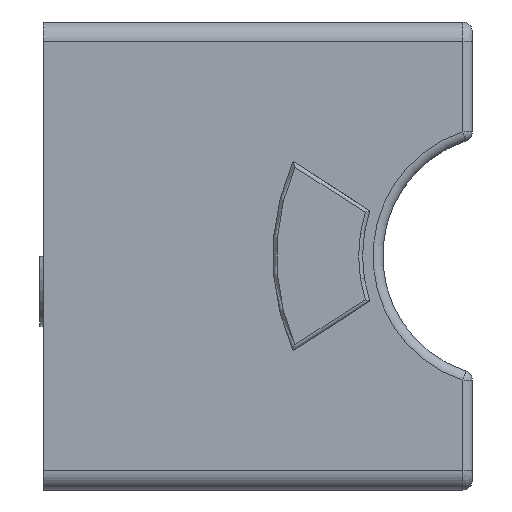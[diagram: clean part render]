
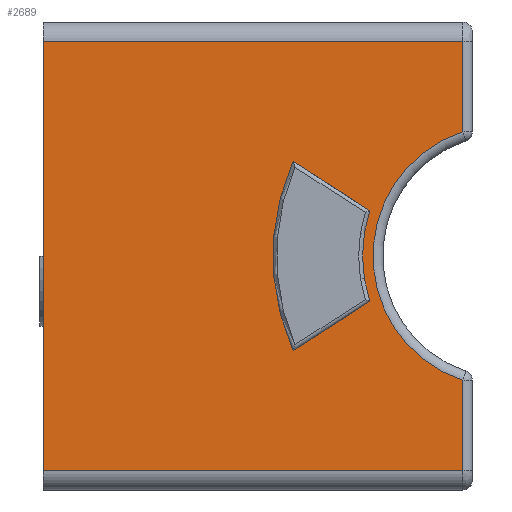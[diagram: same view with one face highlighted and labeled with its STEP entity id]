
A CAD part, left-side view. The second image highlights one B-rep face of the part: STEP entity #2689.
In plain terms, the highlighted planar face has unit normal (-1, 0, 0).
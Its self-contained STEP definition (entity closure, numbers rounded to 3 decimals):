
#102=FACE_BOUND('',#393,.T.);
#103=FACE_BOUND('',#394,.T.);
#221=FACE_OUTER_BOUND('',#392,.T.);
#392=EDGE_LOOP('',(#2316,#2317,#2318,#2319,#2320,#2321));
#393=EDGE_LOOP('',(#2322,#2323,#2324,#2325));
#394=EDGE_LOOP('',(#2326,#2327,#2328,#2329));
#524=CIRCLE('',#2933,6.713);
#525=CIRCLE('',#2934,11.85);
#526=CIRCLE('',#2935,7.25);
#553=LINE('',#3801,#815);
#779=LINE('',#4497,#1041);
#780=LINE('',#4510,#1042);
#781=LINE('',#4514,#1043);
#782=LINE('',#4515,#1044);
#783=LINE('',#4519,#1045);
#784=LINE('',#4523,#1046);
#785=LINE('',#4524,#1047);
#786=LINE('',#4527,#1048);
#787=LINE('',#4531,#1049);
#788=LINE('',#4532,#1050);
#815=VECTOR('',#3007,22.);
#1041=VECTOR('',#3619,4.628);
#1042=VECTOR('',#3626,21.5);
#1043=VECTOR('',#3629,4.628);
#1044=VECTOR('',#3630,21.5);
#1045=VECTOR('',#3633,0.831);
#1046=VECTOR('',#3636,0.831);
#1047=VECTOR('',#3637,8.803);
#1048=VECTOR('',#3638,0.884);
#1049=VECTOR('',#3641,0.884);
#1050=VECTOR('',#3642,5.594);
#1079=VERTEX_POINT('',#3798);
#1080=VERTEX_POINT('',#3800);
#1291=VERTEX_POINT('',#4492);
#1292=VERTEX_POINT('',#4496);
#1293=VERTEX_POINT('',#4512);
#1294=VERTEX_POINT('',#4513);
#1295=VERTEX_POINT('',#4517);
#1296=VERTEX_POINT('',#4518);
#1297=VERTEX_POINT('',#4520);
#1298=VERTEX_POINT('',#4522);
#1299=VERTEX_POINT('',#4525);
#1300=VERTEX_POINT('',#4526);
#1301=VERTEX_POINT('',#4528);
#1302=VERTEX_POINT('',#4530);
#1331=EDGE_CURVE('',#1079,#1080,#553,.T.);
#1644=EDGE_CURVE('',#1291,#1292,#779,.T.);
#1647=EDGE_CURVE('',#1079,#1292,#780,.T.);
#1648=EDGE_CURVE('',#1293,#1294,#781,.T.);
#1649=EDGE_CURVE('',#1080,#1293,#782,.T.);
#1650=EDGE_CURVE('',#1294,#1291,#524,.T.);
#1651=EDGE_CURVE('',#1295,#1296,#783,.T.);
#1652=EDGE_CURVE('',#1297,#1295,#525,.T.);
#1653=EDGE_CURVE('',#1298,#1297,#784,.T.);
#1654=EDGE_CURVE('',#1296,#1298,#785,.T.);
#1655=EDGE_CURVE('',#1299,#1300,#786,.T.);
#1656=EDGE_CURVE('',#1299,#1301,#526,.T.);
#1657=EDGE_CURVE('',#1302,#1301,#787,.T.);
#1658=EDGE_CURVE('',#1302,#1300,#788,.T.);
#2316=ORIENTED_EDGE('',*,*,#1648,.F.);
#2317=ORIENTED_EDGE('',*,*,#1649,.F.);
#2318=ORIENTED_EDGE('',*,*,#1331,.F.);
#2319=ORIENTED_EDGE('',*,*,#1647,.T.);
#2320=ORIENTED_EDGE('',*,*,#1644,.F.);
#2321=ORIENTED_EDGE('',*,*,#1650,.F.);
#2322=ORIENTED_EDGE('',*,*,#1651,.F.);
#2323=ORIENTED_EDGE('',*,*,#1652,.F.);
#2324=ORIENTED_EDGE('',*,*,#1653,.F.);
#2325=ORIENTED_EDGE('',*,*,#1654,.F.);
#2326=ORIENTED_EDGE('',*,*,#1655,.F.);
#2327=ORIENTED_EDGE('',*,*,#1656,.T.);
#2328=ORIENTED_EDGE('',*,*,#1657,.F.);
#2329=ORIENTED_EDGE('',*,*,#1658,.T.);
#2557=PLANE('',#2932);
#2689=ADVANCED_FACE('',(#221,#102,#103),#2557,.T.);
#2932=AXIS2_PLACEMENT_3D('',#4511,#3627,#3628);
#2933=AXIS2_PLACEMENT_3D('',#4516,#3631,#3632);
#2934=AXIS2_PLACEMENT_3D('',#4521,#3634,#3635);
#2935=AXIS2_PLACEMENT_3D('',#4529,#3639,#3640);
#3007=DIRECTION('',(0.,0.,1.));
#3619=DIRECTION('',(0.,0.,-1.));
#3626=DIRECTION('',(0.,-1.,0.));
#3627=DIRECTION('center_axis',(-1.,0.,0.));
#3628=DIRECTION('ref_axis',(0.,0.,1.));
#3629=DIRECTION('',(0.,0.,-1.));
#3630=DIRECTION('',(0.,-1.,0.));
#3631=DIRECTION('center_axis',(-1.,0.,0.));
#3632=DIRECTION('ref_axis',(0.,0.315,0.949));
#3633=DIRECTION('',(0.,-0.842,0.54));
#3634=DIRECTION('center_axis',(-1.,0.,0.));
#3635=DIRECTION('ref_axis',(0.,0.912,0.409));
#3636=DIRECTION('',(0.,0.842,0.54));
#3637=DIRECTION('',(0.,0.,1.));
#3638=DIRECTION('',(0.,0.842,0.54));
#3639=DIRECTION('center_axis',(-1.,0.,0.));
#3640=DIRECTION('ref_axis',(0.,0.947,0.32));
#3641=DIRECTION('',(0.,-0.842,0.54));
#3642=DIRECTION('',(0.,0.,1.));
#3798=CARTESIAN_POINT('',(-16.5,0.,-11.));
#3800=CARTESIAN_POINT('',(-16.5,0.,11.));
#3801=CARTESIAN_POINT('',(-16.5,0.,-11.));
#4492=CARTESIAN_POINT('',(-16.5,-21.5,-6.372));
#4496=CARTESIAN_POINT('',(-16.5,-21.5,-11.));
#4497=CARTESIAN_POINT('',(-16.5,-21.5,-6.372));
#4510=CARTESIAN_POINT('',(-16.5,0.,-11.));
#4511=CARTESIAN_POINT('Origin',(-16.5,0.,-12.));
#4512=CARTESIAN_POINT('',(-16.5,-21.5,11.));
#4513=CARTESIAN_POINT('',(-16.5,-21.5,6.372));
#4514=CARTESIAN_POINT('',(-16.5,-21.5,11.));
#4515=CARTESIAN_POINT('',(-16.5,0.,11.));
#4516=CARTESIAN_POINT('Origin',(-16.5,-23.613,0.));
#4517=CARTESIAN_POINT('',(-16.5,-12.801,-4.85));
#4518=CARTESIAN_POINT('',(-16.5,-13.5,-4.401));
#4519=CARTESIAN_POINT('',(-16.5,-12.801,-4.85));
#4520=CARTESIAN_POINT('',(-16.5,-12.801,4.85));
#4521=CARTESIAN_POINT('Origin',(-16.5,-23.613,0.));
#4522=CARTESIAN_POINT('',(-16.5,-13.5,4.401));
#4523=CARTESIAN_POINT('',(-16.5,-13.5,4.401));
#4524=CARTESIAN_POINT('',(-16.5,-13.5,-4.401));
#4525=CARTESIAN_POINT('',(-16.5,-16.744,2.32));
#4526=CARTESIAN_POINT('',(-16.5,-16.,2.797));
#4527=CARTESIAN_POINT('',(-16.5,-16.744,2.32));
#4528=CARTESIAN_POINT('',(-16.5,-16.744,-2.32));
#4529=CARTESIAN_POINT('Origin',(-16.5,-23.613,0.));
#4530=CARTESIAN_POINT('',(-16.5,-16.,-2.797));
#4531=CARTESIAN_POINT('',(-16.5,-16.,-2.797));
#4532=CARTESIAN_POINT('',(-16.5,-16.,-2.797));
